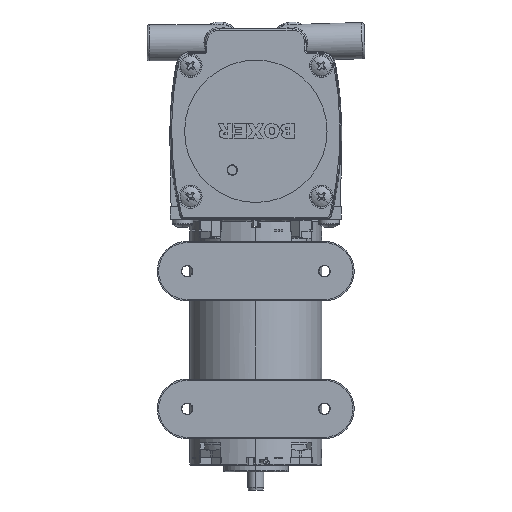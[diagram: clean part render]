
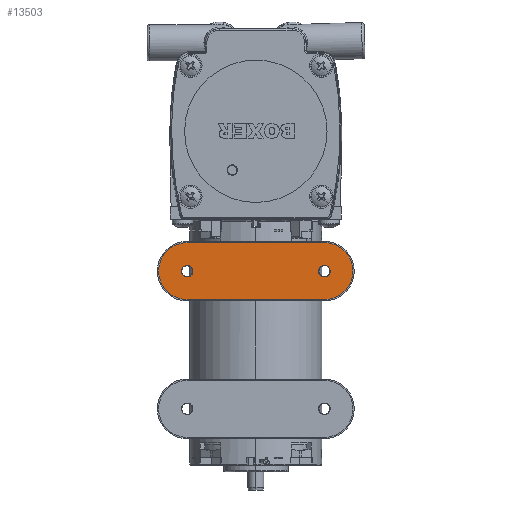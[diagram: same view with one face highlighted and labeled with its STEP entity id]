
A CAD part, front view. The second image highlights one B-rep face of the part: STEP entity #13503.
In plain terms, the highlighted planar face has unit normal (0, -1, 0).
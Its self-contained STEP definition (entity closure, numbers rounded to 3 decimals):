
#2541 = AXIS2_PLACEMENT_3D ( 'NONE', #28850, #28877, #28879 ) ;
#2550 = AXIS2_PLACEMENT_3D ( 'NONE', #29011, #29014, #29015 ) ;
#2551 = AXIS2_PLACEMENT_3D ( 'NONE', #28985, #29000, #29002 ) ;
#2553 = AXIS2_PLACEMENT_3D ( 'NONE', #29018, #29025, #29027 ) ;
#2554 = AXIS2_PLACEMENT_3D ( 'NONE', #28930, #29039, #29041 ) ;
#2555 = AXIS2_PLACEMENT_3D ( 'NONE', #29043, #29063, #29065 ) ;
#2557 = AXIS2_PLACEMENT_3D ( 'NONE', #29054, #29068, #29070 ) ;
#13503 = ADVANCED_FACE ( 'NONE', ( #52918, #52926, #52928 ), #55719, .T. ) ;
#19583 = CARTESIAN_POINT ( 'NONE',  ( -37.5, -45.5, -20. ) ) ;
#19584 = CARTESIAN_POINT ( 'NONE',  ( -26.5, -45.5, -31. ) ) ;
#19587 = CARTESIAN_POINT ( 'NONE',  ( 24.25, -45.5, -20. ) ) ;
#19588 = CARTESIAN_POINT ( 'NONE',  ( 28.75, -45.5, -20. ) ) ;
#19591 = CARTESIAN_POINT ( 'NONE',  ( -28.75, -45.5, -20. ) ) ;
#19592 = CARTESIAN_POINT ( 'NONE',  ( -24.25, -45.5, -20. ) ) ;
#19595 = CARTESIAN_POINT ( 'NONE',  ( 26.5, -45.5, -31. ) ) ;
#19596 = CARTESIAN_POINT ( 'NONE',  ( 26.5, -45.5, -9. ) ) ;
#19597 = CARTESIAN_POINT ( 'NONE',  ( -26.5, -45.5, -9. ) ) ;
#22771 = VERTEX_POINT ( 'NONE', #19583 ) ;
#22772 = VERTEX_POINT ( 'NONE', #19584 ) ;
#22775 = VERTEX_POINT ( 'NONE', #19587 ) ;
#22776 = VERTEX_POINT ( 'NONE', #19588 ) ;
#22779 = VERTEX_POINT ( 'NONE', #19591 ) ;
#22780 = VERTEX_POINT ( 'NONE', #19592 ) ;
#22783 = VERTEX_POINT ( 'NONE', #19595 ) ;
#22784 = VERTEX_POINT ( 'NONE', #19596 ) ;
#22785 = VERTEX_POINT ( 'NONE', #19597 ) ;
#24602 = EDGE_LOOP ( 'NONE', ( #26996, #26997 ) ) ;
#24603 = EDGE_LOOP ( 'NONE', ( #26991, #26992, #26993, #26994, #26995 ) ) ;
#24606 = EDGE_LOOP ( 'NONE', ( #26989, #26990 ) ) ;
#25623 = EDGE_CURVE ( 'NONE', #22771, #22772, #30240, .T. ) ;
#25639 = EDGE_CURVE ( 'NONE', #22772, #22783, #30280, .T. ) ;
#25641 = EDGE_CURVE ( 'NONE', #22775, #22776, #30291, .T. ) ;
#25643 = EDGE_CURVE ( 'NONE', #22780, #22779, #30299, .T. ) ;
#25645 = EDGE_CURVE ( 'NONE', #22779, #22780, #30304, .T. ) ;
#25647 = EDGE_CURVE ( 'NONE', #22776, #22775, #30310, .T. ) ;
#25649 = EDGE_CURVE ( 'NONE', #22784, #22785, #30301, .T. ) ;
#25651 = EDGE_CURVE ( 'NONE', #22785, #22771, #30322, .T. ) ;
#25652 = EDGE_CURVE ( 'NONE', #22783, #22784, #30325, .T. ) ;
#26989 = ORIENTED_EDGE ( 'NONE', *, *, #25641, .F. ) ;
#26990 = ORIENTED_EDGE ( 'NONE', *, *, #25647, .F. ) ;
#26991 = ORIENTED_EDGE ( 'NONE', *, *, #25639, .T. ) ;
#26992 = ORIENTED_EDGE ( 'NONE', *, *, #25652, .T. ) ;
#26993 = ORIENTED_EDGE ( 'NONE', *, *, #25649, .T. ) ;
#26994 = ORIENTED_EDGE ( 'NONE', *, *, #25651, .T. ) ;
#26995 = ORIENTED_EDGE ( 'NONE', *, *, #25623, .T. ) ;
#26996 = ORIENTED_EDGE ( 'NONE', *, *, #25645, .F. ) ;
#26997 = ORIENTED_EDGE ( 'NONE', *, *, #25643, .F. ) ;
#28850 = CARTESIAN_POINT ( 'NONE',  ( -26.5, -45.5, -20. ) ) ;
#28877 = DIRECTION ( 'NONE',  ( 0., -1., 0. ) ) ;
#28879 = DIRECTION ( 'NONE',  ( 1., 0., 0. ) ) ;
#28930 = CARTESIAN_POINT ( 'NONE',  ( 26.5, -45.5, -20. ) ) ;
#28985 = CARTESIAN_POINT ( 'NONE',  ( 26.5, -45.5, -20. ) ) ;
#28990 = CARTESIAN_POINT ( 'NONE',  ( -26.5, -45.5, -31. ) ) ;
#28992 = DIRECTION ( 'NONE',  ( 1., 0., 0. ) ) ;
#29000 = DIRECTION ( 'NONE',  ( 0., -1., 0. ) ) ;
#29002 = DIRECTION ( 'NONE',  ( 1., 0., 0. ) ) ;
#29011 = CARTESIAN_POINT ( 'NONE',  ( -26.5, -45.5, -20. ) ) ;
#29014 = DIRECTION ( 'NONE',  ( 0., -1., 0. ) ) ;
#29015 = DIRECTION ( 'NONE',  ( 1., 0., 0. ) ) ;
#29018 = CARTESIAN_POINT ( 'NONE',  ( -26.5, -45.5, -20. ) ) ;
#29025 = DIRECTION ( 'NONE',  ( 0., -1., 0. ) ) ;
#29027 = DIRECTION ( 'NONE',  ( 1., 0., 0. ) ) ;
#29039 = DIRECTION ( 'NONE',  ( 0., -1., 0. ) ) ;
#29041 = DIRECTION ( 'NONE',  ( 1., 0., 0. ) ) ;
#29043 = CARTESIAN_POINT ( 'NONE',  ( -26.5, -45.5, -20. ) ) ;
#29050 = CARTESIAN_POINT ( 'NONE',  ( 26.5, -45.5, -9. ) ) ;
#29052 = DIRECTION ( 'NONE',  ( -1., 0., 0. ) ) ;
#29054 = CARTESIAN_POINT ( 'NONE',  ( 26.5, -45.5, -20. ) ) ;
#29063 = DIRECTION ( 'NONE',  ( 0., -1., 0. ) ) ;
#29065 = DIRECTION ( 'NONE',  ( 1., 0., 0. ) ) ;
#29068 = DIRECTION ( 'NONE',  ( 0., -1., 0. ) ) ;
#29070 = DIRECTION ( 'NONE',  ( 1., 0., 0. ) ) ;
#30240 = CIRCLE ( 'NONE', #2541, 11. ) ;
#30280 = LINE ( 'NONE', #28990, #30282 ) ;
#30282 = VECTOR ( 'NONE', #28992, 1000. ) ;
#30291 = CIRCLE ( 'NONE', #2551, 2.25 ) ;
#30299 = CIRCLE ( 'NONE', #2550, 2.25 ) ;
#30301 = LINE ( 'NONE', #29050, #30308 ) ;
#30304 = CIRCLE ( 'NONE', #2553, 2.25 ) ;
#30308 = VECTOR ( 'NONE', #29052, 1000. ) ;
#30310 = CIRCLE ( 'NONE', #2554, 2.25 ) ;
#30322 = CIRCLE ( 'NONE', #2555, 11. ) ;
#30325 = CIRCLE ( 'NONE', #2557, 11. ) ;
#48074 = AXIS2_PLACEMENT_3D ( 'NONE', #55718, #55720, #55721 ) ;
#52918 = FACE_BOUND ( 'NONE', #24606, .T. ) ;
#52926 = FACE_OUTER_BOUND ( 'NONE', #24603, .T. ) ;
#52928 = FACE_BOUND ( 'NONE', #24602, .T. ) ;
#55718 = CARTESIAN_POINT ( 'NONE',  ( 26.5, -45.5, -20. ) ) ;
#55719 = PLANE ( 'NONE',  #48074 ) ;
#55720 = DIRECTION ( 'NONE',  ( 0., -1., 0. ) ) ;
#55721 = DIRECTION ( 'NONE',  ( 1., 0., 0. ) ) ;
